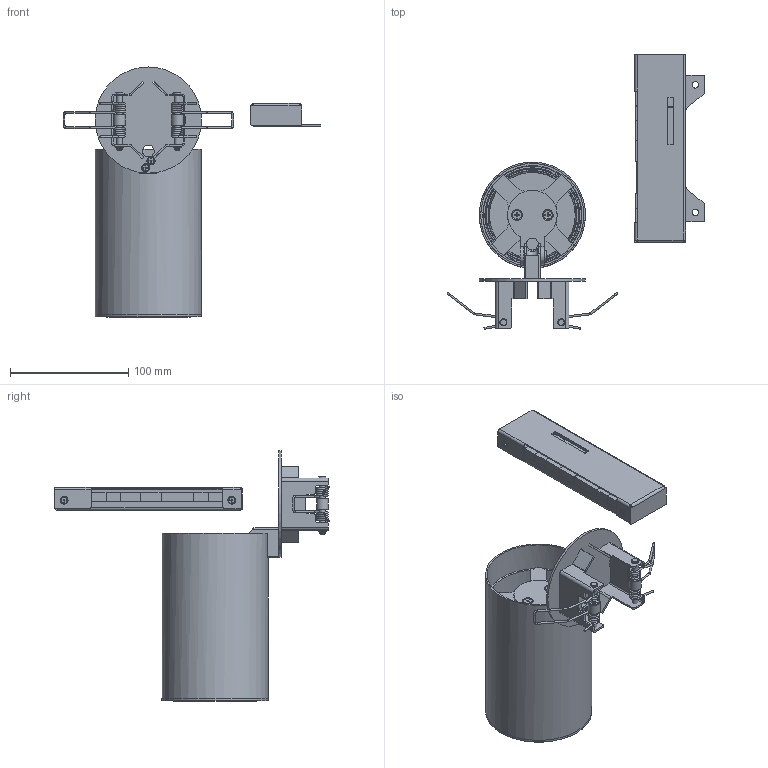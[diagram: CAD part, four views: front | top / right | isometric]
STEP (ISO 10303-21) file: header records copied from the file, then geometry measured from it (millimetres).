
FILE_DESCRIPTION(/* description */ ('Unknown'),/* implementation_level */ '2;1');
FILE_NAME(/* name */ '99018448 Ambiane SP16 Ceiling Mount Tilt 30° RAL9011',/* time_stamp */ '2024-02-29T09:04:51+01:00',/* author */ ('Unknown'),/* organization */ ('Unknown'),/* preprocessor_version */ 'ST-DEVELOPER v18.104',/* originating_system */ 'Solid Edge',/* authorisation */ 'Unknown');
FILE_SCHEMA (('AUTOMOTIVE_DESIGN {1 0 10303 214 3 1 1}'));
Length unit declared in the file: millimetre
Products named in the file (35): 99018448 Ambiane SP16 Ceiling Mount Tilt 30° RAL9011; 12451994 Kryt vn靔氻 30st SFMT; 99016551-03 Ambaine XP Pendant Remote driver; 17442164-03 Nosník elektroniky; 11417557-03 Nosník elektroniky; 18060263 Distanèní sloupek 3COM1-X-6; 18040018 Matice zálisná M3; 13032897-02 PCB RB3729-V6.1.C.1 Ambiane XP Pendant Remote; 11417837 Kryt elektroniky_Remote; 18050064 Vìjíøovka pr 3 zápustná; 18010033 Šr.køíž.zápustný M3x6; 18550011 V骹薠ovka pr 3; 18010008 Šr.Køíž.pulkul. M3x8; 11419288 Køíž; 19520471 Adaptér SP; 18010120 Šroub køížový zápustný M4x16; 99018444 Stropní deska; 11431192 Deska; 11019303 Krycí rámeèek; 11019298 Boènice; 18010032 Šr.køíž.zápustný M3x8; 18060039 Pojistný kroužek 3,2; 17031009-01 Vinuté pero; 12520169 Distance D10xd4,8xL10; 12051171 萫p; 12451996 Rameno; 18010375 Šroub záp, s vnitø, šestihr, M 5x22 èZnNi; 11431191 Z嫛鮀; 17042893 Oko lisování ; 18040002 Matice zálisná M5; 11019280 Deska 3; 11019279 Deska 2; 11019278 Deska 1; 14061273 Sklo Ambiane SP D73 tl.3; 12451928 Pøední díl - SPP- obrábìní
Assembly tree (52 placements, depth 4):
  99018448 Ambiane SP16 Ceiling Mount Tilt 30° RAL9011
    12451994 Kryt vn靔氻 30st SFMT
    99016551-03 Ambaine XP Pendant Remote driver
      17442164-03 Nosník elektroniky
        11417557-03 Nosník elektroniky
        18060263 Distanèní sloupek 3COM1-X-6  x2
        18040018 Matice zálisná M3  x4
      13032897-02 PCB RB3729-V6.1.C.1 Ambiane XP Pendant Remote
      11417837 Kryt elektroniky_Remote
      18050064 Vìjíøovka pr 3 zápustná  x4
      18010033 Šr.køíž.zápustný M3x6  x4
      18550011 V骹薠ovka pr 3
      18010008 Šr.Køíž.pulkul. M3x8  x2
    11419288 Køíž
    19520471 Adaptér SP
    18010120 Šroub køížový zápustný M4x16  x2
    99018444 Stropní deska
      11431192 Deska
        11019303 Krycí rámeèek
        11019298 Boènice  x2
      18010032 Šr.køíž.zápustný M3x8  x2
      18060039 Pojistný kroužek 3,2  x2
      17031009-01 Vinuté pero  x2
      12520169 Distance D10xd4,8xL10  x2
      12051171 萫p  x2
      12451996 Rameno
    18010375 Šroub záp, s vnitø, šestihr, M 5x22 èZnNi
    11431191 Z嫛鮀
      17042893 Oko lisování 
        18040002 Matice zálisná M5
        11019280 Deska 3
      11019279 Deska 2
      11019278 Deska 1
    14061273 Sklo Ambiane SP D73 tl.3
    12451928 Pøední díl - SPP- obrábìní
Bounding box: 218.33 x 232.61 x 211.9 mm (x, y, z)
Volume: 230793.2 mm3; surface area: 215243.1 mm2
Topology: 46 solids, 46 shells, 2094 faces, 5296 edges, 3450 vertices
Faces by surface type: plane 1442, cylinder 405, cone 114, torus 96, sphere 28, bspline 9
Full cylindrical faces by diameter (mm): 0.97 x24, 1.4 x23, 1.6 x16, 2.459 x4, 2.5 x8, 3 x8, 3.135 x2, 3.2 x11, 4 x3, 4.2 x5, 4.22 x4, 4.3 x6, 4.5 x6, 4.8 x2, 5 x1, 5.2 x1, 5.3 x1, 5.5 x8, 5.6 x2, 6 x2, 6.3 x4, 6.4 x1, 6.5 x1, 7.5 x2, 9 x1, 10 x5, 12 x1, 73 x1, 83.2 x1, 84 x1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
Entity records: 56310 total; most frequent: CARTESIAN_POINT 11400, ORIENTED_EDGE 7758, DIRECTION 7580, EDGE_CURVE 3879, LINE 2720, VECTOR 2720, VERTEX_POINT 2605, AXIS2_PLACEMENT_3D 2430
